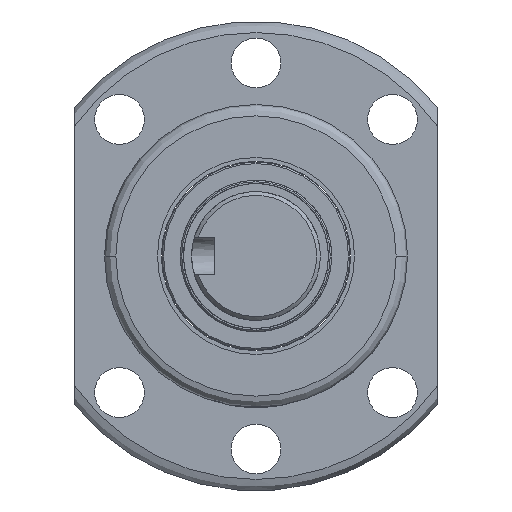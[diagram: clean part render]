
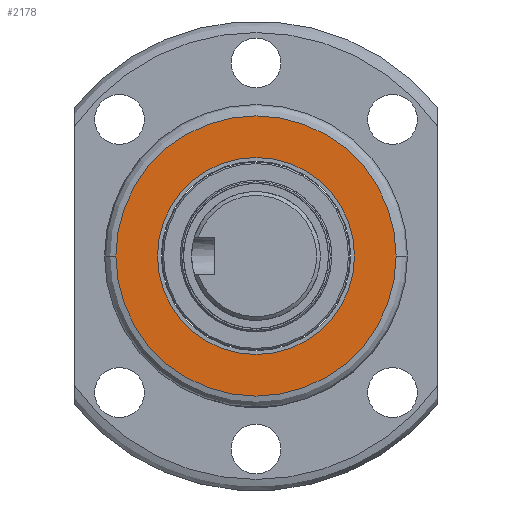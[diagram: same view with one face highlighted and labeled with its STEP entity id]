
A CAD part, left-side view. The second image highlights one B-rep face of the part: STEP entity #2178.
In plain terms, the highlighted planar face has unit normal (-1, 0, 0).
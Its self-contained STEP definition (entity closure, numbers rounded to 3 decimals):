
#89 = VERTEX_POINT ( 'NONE', #8091 ) ;
#641 = AXIS2_PLACEMENT_3D ( 'NONE', #5793, #3435, #7218 ) ;
#670 = DIRECTION ( 'NONE',  ( 0., 0., 1. ) ) ;
#1000 = FACE_BOUND ( 'NONE', #12617, .T. ) ;
#1449 = CIRCLE ( 'NONE', #641, 13. ) ;
#1763 = DIRECTION ( 'NONE',  ( 1., 0., 0. ) ) ;
#2178 = ADVANCED_FACE ( 'NONE', ( #1000, #13996 ), #12570, .T. ) ;
#2859 = AXIS2_PLACEMENT_3D ( 'NONE', #12183, #8960, #13909 ) ;
#3049 = ORIENTED_EDGE ( 'NONE', *, *, #10163, .F. ) ;
#3403 = ORIENTED_EDGE ( 'NONE', *, *, #13125, .F. ) ;
#3435 = DIRECTION ( 'NONE',  ( 1., 0., 0. ) ) ;
#5793 = CARTESIAN_POINT ( 'NONE',  ( -66., 0., 0. ) ) ;
#5946 = DIRECTION ( 'NONE',  ( 1., 0., 0. ) ) ;
#6526 = CIRCLE ( 'NONE', #7077, 13. ) ;
#7077 = AXIS2_PLACEMENT_3D ( 'NONE', #7968, #5946, #670 ) ;
#7183 = ORIENTED_EDGE ( 'NONE', *, *, #11511, .T. ) ;
#7218 = DIRECTION ( 'NONE',  ( 0., 0., 1. ) ) ;
#7592 = VERTEX_POINT ( 'NONE', #13140 ) ;
#7657 = CARTESIAN_POINT ( 'NONE',  ( -66., 0., -13. ) ) ;
#7894 = CIRCLE ( 'NONE', #10067, 18.5 ) ;
#7968 = CARTESIAN_POINT ( 'NONE',  ( -66., 0., 0. ) ) ;
#8091 = CARTESIAN_POINT ( 'NONE',  ( -66., 0., 13. ) ) ;
#8804 = DIRECTION ( 'NONE',  ( 0., 1., 0. ) ) ;
#8850 = AXIS2_PLACEMENT_3D ( 'NONE', #12083, #1763, #15673 ) ;
#8960 = DIRECTION ( 'NONE',  ( -1., 0., 0. ) ) ;
#9239 = CARTESIAN_POINT ( 'NONE',  ( -66., 18.5, 0. ) ) ;
#9771 = ORIENTED_EDGE ( 'NONE', *, *, #11744, .T. ) ;
#10067 = AXIS2_PLACEMENT_3D ( 'NONE', #15409, #16518, #8804 ) ;
#10163 = EDGE_CURVE ( 'NONE', #12743, #7592, #7894, .T. ) ;
#11511 = EDGE_CURVE ( 'NONE', #15413, #89, #6526, .T. ) ;
#11530 = CIRCLE ( 'NONE', #8850, 18.5 ) ;
#11744 = EDGE_CURVE ( 'NONE', #89, #15413, #1449, .T. ) ;
#12083 = CARTESIAN_POINT ( 'NONE',  ( -66., 0., 0. ) ) ;
#12183 = CARTESIAN_POINT ( 'NONE',  ( -66., 14.5, 0. ) ) ;
#12570 = PLANE ( 'NONE',  #2859 ) ;
#12617 = EDGE_LOOP ( 'NONE', ( #9771, #7183 ) ) ;
#12743 = VERTEX_POINT ( 'NONE', #9239 ) ;
#13102 = EDGE_LOOP ( 'NONE', ( #3049, #3403 ) ) ;
#13125 = EDGE_CURVE ( 'NONE', #7592, #12743, #11530, .T. ) ;
#13140 = CARTESIAN_POINT ( 'NONE',  ( -66., -18.5, 0. ) ) ;
#13909 = DIRECTION ( 'NONE',  ( 0., 1., 0. ) ) ;
#13996 = FACE_OUTER_BOUND ( 'NONE', #13102, .T. ) ;
#15409 = CARTESIAN_POINT ( 'NONE',  ( -66., 0., 0. ) ) ;
#15413 = VERTEX_POINT ( 'NONE', #7657 ) ;
#15673 = DIRECTION ( 'NONE',  ( 0., 1., 0. ) ) ;
#16518 = DIRECTION ( 'NONE',  ( 1., 0., 0. ) ) ;
